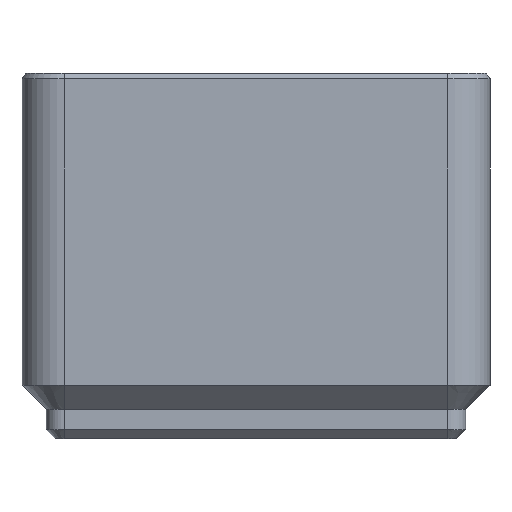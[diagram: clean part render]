
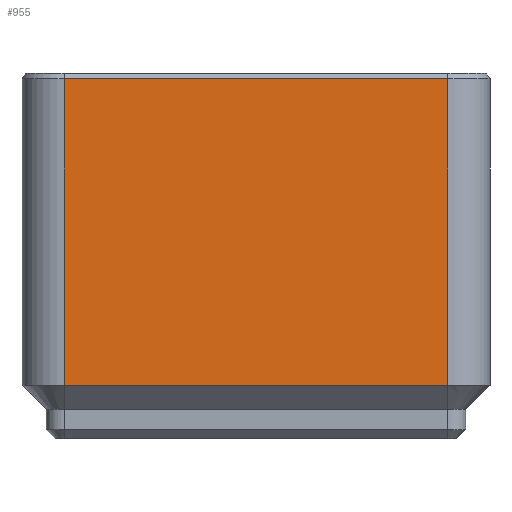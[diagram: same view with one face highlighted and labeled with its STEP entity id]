
A CAD part, left-side view. The second image highlights one B-rep face of the part: STEP entity #955.
In plain terms, the highlighted planar face has unit normal (-1, 0, 0).
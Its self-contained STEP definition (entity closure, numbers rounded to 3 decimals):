
#72 = PLANE('',#73);
#73 = AXIS2_PLACEMENT_3D('',#74,#75,#76);
#74 = CARTESIAN_POINT('',(-20.75,0.,4.75));
#75 = DIRECTION('',(-0.707,0.,-0.707));
#76 = DIRECTION('',(0.,-1.,-0.));
#387 = VERTEX_POINT('',#388);
#388 = CARTESIAN_POINT('',(-20.75,-17.,4.75));
#406 = EDGE_CURVE('',#387,#407,#409,.T.);
#407 = VERTEX_POINT('',#408);
#408 = CARTESIAN_POINT('',(-20.75,17.,4.75));
#409 = SURFACE_CURVE('',#410,(#414,#421),.PCURVE_S1.);
#410 = LINE('',#411,#412);
#411 = CARTESIAN_POINT('',(-20.75,0.,4.75));
#412 = VECTOR('',#413,1.);
#413 = DIRECTION('',(0.,1.,0.));
#414 = PCURVE('',#72,#415);
#415 = DEFINITIONAL_REPRESENTATION('',(#416),#420);
#416 = LINE('',#417,#418);
#417 = CARTESIAN_POINT('',(0.,0.));
#418 = VECTOR('',#419,1.);
#419 = DIRECTION('',(-1.,0.));
#420 = ( GEOMETRIC_REPRESENTATION_CONTEXT(2) 
PARAMETRIC_REPRESENTATION_CONTEXT() REPRESENTATION_CONTEXT('2D SPACE',''
  ) );
#421 = PCURVE('',#422,#427);
#422 = PLANE('',#423);
#423 = AXIS2_PLACEMENT_3D('',#424,#425,#426);
#424 = CARTESIAN_POINT('',(-20.75,-17.,4.75));
#425 = DIRECTION('',(-1.,0.,0.));
#426 = DIRECTION('',(0.,1.,0.));
#427 = DEFINITIONAL_REPRESENTATION('',(#428),#432);
#428 = LINE('',#429,#430);
#429 = CARTESIAN_POINT('',(17.,0.));
#430 = VECTOR('',#431,1.);
#431 = DIRECTION('',(1.,0.));
#432 = ( GEOMETRIC_REPRESENTATION_CONTEXT(2) 
PARAMETRIC_REPRESENTATION_CONTEXT() REPRESENTATION_CONTEXT('2D SPACE',''
  ) );
#624 = CYLINDRICAL_SURFACE('',#625,3.75);
#625 = AXIS2_PLACEMENT_3D('',#626,#627,#628);
#626 = CARTESIAN_POINT('',(-17.,-17.,4.75));
#627 = DIRECTION('',(0.,0.,-1.));
#628 = DIRECTION('',(-1.,0.,0.));
#791 = CYLINDRICAL_SURFACE('',#792,3.75);
#792 = AXIS2_PLACEMENT_3D('',#793,#794,#795);
#793 = CARTESIAN_POINT('',(-17.,17.,4.75));
#794 = DIRECTION('',(0.,0.,-1.));
#795 = DIRECTION('',(-1.,0.,0.));
#955 = ADVANCED_FACE('',(#956),#422,.T.);
#956 = FACE_BOUND('',#957,.T.);
#957 = EDGE_LOOP('',(#958,#981,#1009,#1030));
#958 = ORIENTED_EDGE('',*,*,#959,.T.);
#959 = EDGE_CURVE('',#387,#960,#962,.T.);
#960 = VERTEX_POINT('',#961);
#961 = CARTESIAN_POINT('',(-20.75,-17.,31.9));
#962 = SURFACE_CURVE('',#963,(#967,#974),.PCURVE_S1.);
#963 = LINE('',#964,#965);
#964 = CARTESIAN_POINT('',(-20.75,-17.,4.75));
#965 = VECTOR('',#966,1.);
#966 = DIRECTION('',(0.,0.,1.));
#967 = PCURVE('',#422,#968);
#968 = DEFINITIONAL_REPRESENTATION('',(#969),#973);
#969 = LINE('',#970,#971);
#970 = CARTESIAN_POINT('',(0.,0.));
#971 = VECTOR('',#972,1.);
#972 = DIRECTION('',(0.,-1.));
#973 = ( GEOMETRIC_REPRESENTATION_CONTEXT(2) 
PARAMETRIC_REPRESENTATION_CONTEXT() REPRESENTATION_CONTEXT('2D SPACE',''
  ) );
#974 = PCURVE('',#624,#975);
#975 = DEFINITIONAL_REPRESENTATION('',(#976),#980);
#976 = LINE('',#977,#978);
#977 = CARTESIAN_POINT('',(6.283,0.));
#978 = VECTOR('',#979,1.);
#979 = DIRECTION('',(0.,-1.));
#980 = ( GEOMETRIC_REPRESENTATION_CONTEXT(2) 
PARAMETRIC_REPRESENTATION_CONTEXT() REPRESENTATION_CONTEXT('2D SPACE',''
  ) );
#981 = ORIENTED_EDGE('',*,*,#982,.T.);
#982 = EDGE_CURVE('',#960,#983,#985,.T.);
#983 = VERTEX_POINT('',#984);
#984 = CARTESIAN_POINT('',(-20.75,17.,31.9));
#985 = SURFACE_CURVE('',#986,(#990,#997),.PCURVE_S1.);
#986 = LINE('',#987,#988);
#987 = CARTESIAN_POINT('',(-20.75,0.,31.9));
#988 = VECTOR('',#989,1.);
#989 = DIRECTION('',(0.,1.,0.));
#990 = PCURVE('',#422,#991);
#991 = DEFINITIONAL_REPRESENTATION('',(#992),#996);
#992 = LINE('',#993,#994);
#993 = CARTESIAN_POINT('',(17.,-27.15));
#994 = VECTOR('',#995,1.);
#995 = DIRECTION('',(1.,0.));
#996 = ( GEOMETRIC_REPRESENTATION_CONTEXT(2) 
PARAMETRIC_REPRESENTATION_CONTEXT() REPRESENTATION_CONTEXT('2D SPACE',''
  ) );
#997 = PCURVE('',#998,#1003);
#998 = PLANE('',#999);
#999 = AXIS2_PLACEMENT_3D('',#1000,#1001,#1002);
#1000 = CARTESIAN_POINT('',(-20.4,0.,32.4));
#1001 = DIRECTION('',(-0.819,0.,0.573));
#1002 = DIRECTION('',(-0.,-1.,0.));
#1003 = DEFINITIONAL_REPRESENTATION('',(#1004),#1008);
#1004 = LINE('',#1005,#1006);
#1005 = CARTESIAN_POINT('',(0.,-0.61));
#1006 = VECTOR('',#1007,1.);
#1007 = DIRECTION('',(-1.,0.));
#1008 = ( GEOMETRIC_REPRESENTATION_CONTEXT(2) 
PARAMETRIC_REPRESENTATION_CONTEXT() REPRESENTATION_CONTEXT('2D SPACE',''
  ) );
#1009 = ORIENTED_EDGE('',*,*,#1010,.F.);
#1010 = EDGE_CURVE('',#407,#983,#1011,.T.);
#1011 = SURFACE_CURVE('',#1012,(#1016,#1023),.PCURVE_S1.);
#1012 = LINE('',#1013,#1014);
#1013 = CARTESIAN_POINT('',(-20.75,17.,4.75));
#1014 = VECTOR('',#1015,1.);
#1015 = DIRECTION('',(0.,0.,1.));
#1016 = PCURVE('',#422,#1017);
#1017 = DEFINITIONAL_REPRESENTATION('',(#1018),#1022);
#1018 = LINE('',#1019,#1020);
#1019 = CARTESIAN_POINT('',(34.,0.));
#1020 = VECTOR('',#1021,1.);
#1021 = DIRECTION('',(0.,-1.));
#1022 = ( GEOMETRIC_REPRESENTATION_CONTEXT(2) 
PARAMETRIC_REPRESENTATION_CONTEXT() REPRESENTATION_CONTEXT('2D SPACE',''
  ) );
#1023 = PCURVE('',#791,#1024);
#1024 = DEFINITIONAL_REPRESENTATION('',(#1025),#1029);
#1025 = LINE('',#1026,#1027);
#1026 = CARTESIAN_POINT('',(0.,0.));
#1027 = VECTOR('',#1028,1.);
#1028 = DIRECTION('',(0.,-1.));
#1029 = ( GEOMETRIC_REPRESENTATION_CONTEXT(2) 
PARAMETRIC_REPRESENTATION_CONTEXT() REPRESENTATION_CONTEXT('2D SPACE',''
  ) );
#1030 = ORIENTED_EDGE('',*,*,#406,.F.);
